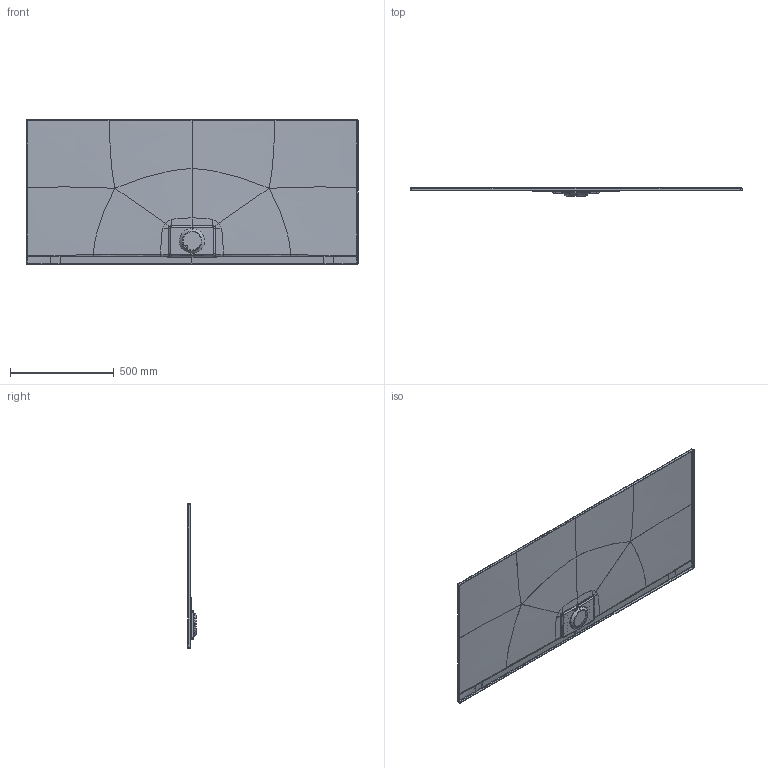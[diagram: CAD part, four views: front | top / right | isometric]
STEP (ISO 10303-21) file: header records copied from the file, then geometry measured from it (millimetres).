
FILE_DESCRIPTION((''),'2;1');
FILE_NAME('UDA1670ARA215_ARCHITECTURA_META_ASM','2022-07-12T15:06:17',('GrootJ'),('Villeroy & Boch Wellness bv'),'CREO PARAMETRIC BY PTC INC, 2020454','CREO PARAMETRIC BY PTC INC, 2020454','');
FILE_SCHEMA(('CONFIG_CONTROL_DESIGN'));
Products named in the file (6): G0500027_22; G0500024_69; G0500026_ASM_11_ASM; METALRIM_COVER_GEPLAATST120722_ASM; METALRIM-LOGO_12072022; UDA1670ARA215_ARCHITECTURA_META_ASM
Assembly tree (5 placements, depth 4):
  UDA1670ARA215_ARCHITECTURA_META_ASM
    METALRIM_COVER_GEPLAATST120722_ASM
      G0500026_ASM_11_ASM
        G0500027_22
        G0500024_69
    METALRIM-LOGO_12072022
Bounding box: 1600 x 42 x 700 mm (x, y, z)
Volume: 119920.3 mm3; surface area: 2459348.4 mm2
Topology: 30 solids, 33 shells, 1179 faces, 3067 edges, 1918 vertices
Faces by surface type: plane 422, extrusion 241, cylinder 173, bspline 171, cone 114, sphere 36, torus 22
Entity records: 49823 total; most frequent: CARTESIAN_POINT 23773, ORIENTED_EDGE 6088, DIRECTION 4049, EDGE_CURVE 3048, VERTEX_POINT 1918, VECTOR 1559, B_SPLINE_CURVE_WITH_KNOTS 1507, LINE 1318
